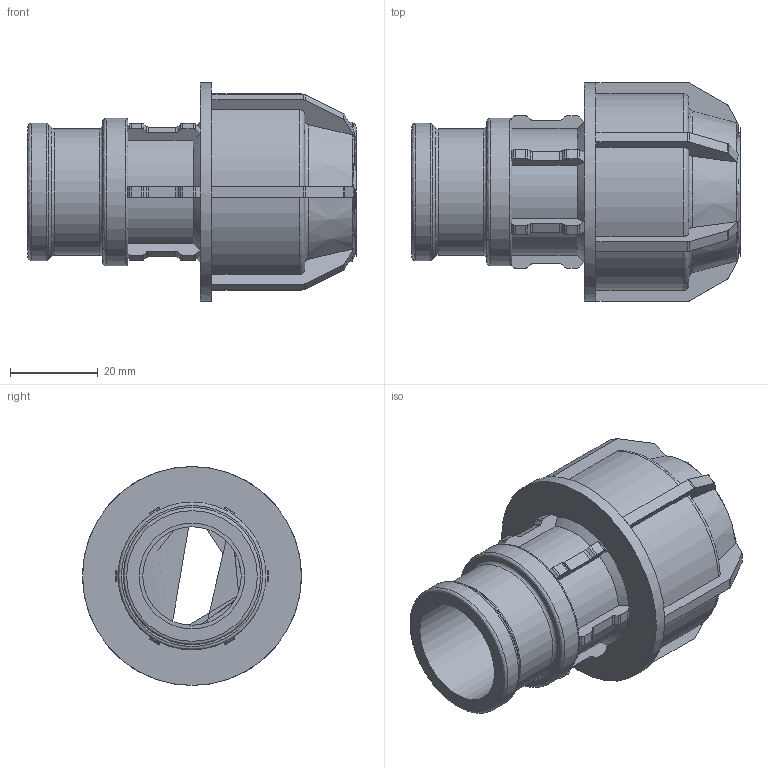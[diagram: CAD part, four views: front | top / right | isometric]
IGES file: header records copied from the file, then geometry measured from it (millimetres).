
Global section: file name: 140300025007.ipt; native system: Autodesk Inventor 2015; preprocessor: unknown; author: KIM; date: 20180409.131006; units: millimetre
Bounding box: 75 x 50 x 50 mm (x, y, z)
Volume: 43777.7 mm3; surface area: 19097.2 mm2
Topology: 1 solids, 1 shells, 261 faces, 745 edges, 480 vertices
Faces by surface type: plane 160, cylinder 52, revolution 36, cone 13
Full cylindrical faces by diameter (mm): 28.94 x1, 31.352 x1, 33.764 x1, 50 x1
